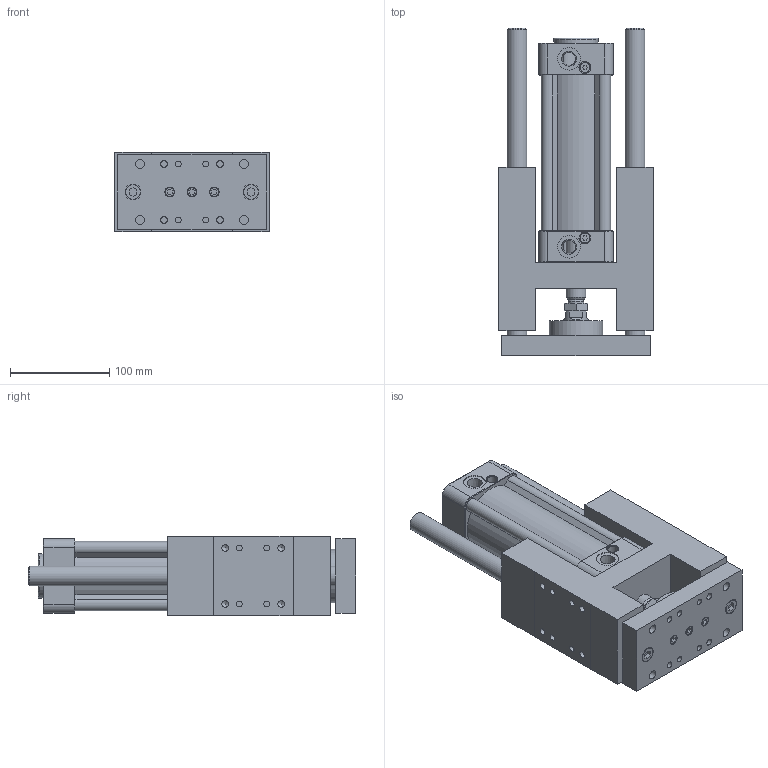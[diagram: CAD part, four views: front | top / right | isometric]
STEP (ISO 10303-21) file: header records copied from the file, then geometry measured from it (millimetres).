
FILE_DESCRIPTION((''),'2;1');
FILE_NAME('I:\3D電子目錄\氣缸\GHB(U)\GHB(U)\GHB(U)63\GHB(U)63x100.stp','2007-10-22T09:00:57',('Administrator'),(''),'Autodesk Inventor 11','Autodesk Inventor 11','');
FILE_SCHEMA(('AUTOMOTIVE_DESIGN { 1 0 10303 214 1 1 1 1 }'));
Length unit declared in the file: millimetre
Products named in the file (1): GHB(U)63
Bounding box: 156 x 330 x 80 mm (x, y, z)
Volume: 1885325.3 mm3; surface area: 346104.1 mm2
Topology: 1 solids, 13 shells, 789 faces, 1754 edges, 1088 vertices
Faces by surface type: plane 303, bspline 237, cylinder 159, cone 88, torus 2
Full cylindrical faces by diameter (mm): 2.5 x2, 6 x4, 6.647 x4, 6.7 x2, 6.75 x4, 7.25 x4, 7.4 x4, 7.5 x2, 8.5 x9, 9 x2, 9.8 x4, 10 x5, 11.5 x1, 11.9 x1, 12 x3, 13 x4, 14 x8, 14.5 x2, 16 x3, 20 x4, 23 x3, 25 x1, 26 x2, 45 x1, 54 x1, 63 x1
Entity records: 22867 total; most frequent: CARTESIAN_POINT 7086, DIRECTION 3132, ORIENTED_EDGE 3076, EDGE_CURVE 1538, AXIS2_PLACEMENT_3D 1207, EDGE_LOOP 1075, VERTEX_POINT 1047, FACE_OUTER_BOUND 789
